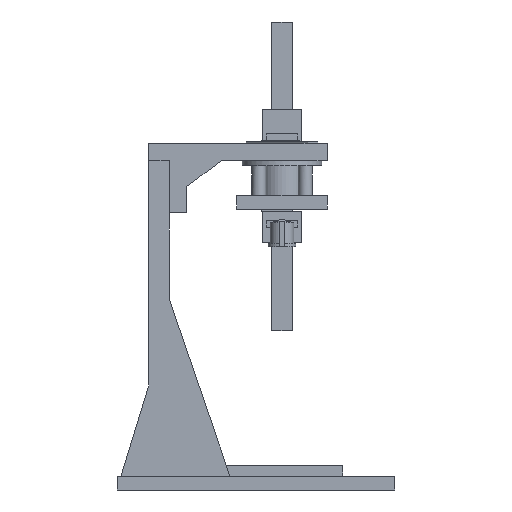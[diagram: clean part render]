
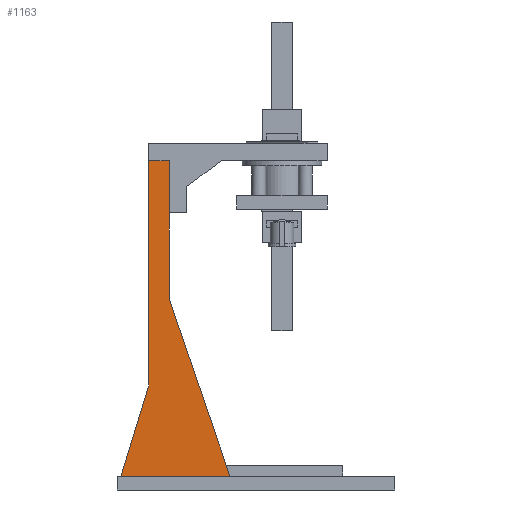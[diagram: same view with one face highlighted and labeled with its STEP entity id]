
A CAD part, left-side view. The second image highlights one B-rep face of the part: STEP entity #1163.
In plain terms, the highlighted planar face has unit normal (-1, 0, 0).
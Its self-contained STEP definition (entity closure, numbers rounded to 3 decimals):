
#220 = PLANE('',#221);
#221 = AXIS2_PLACEMENT_3D('',#222,#223,#224);
#222 = CARTESIAN_POINT('',(0.,0.,8.));
#223 = DIRECTION('',(0.,0.,1.));
#224 = DIRECTION('',(1.,0.,0.));
#474 = VERTEX_POINT('',#475);
#475 = CARTESIAN_POINT('',(45.,95.,8.));
#491 = PLANE('',#492);
#492 = AXIS2_PLACEMENT_3D('',#493,#494,#495);
#493 = CARTESIAN_POINT('',(45.,130.,110.));
#494 = DIRECTION('',(0.,0.946,-0.325));
#495 = DIRECTION('',(0.,-0.325,-0.946));
#503 = EDGE_CURVE('',#474,#504,#506,.T.);
#504 = VERTEX_POINT('',#505);
#505 = CARTESIAN_POINT('',(45.,158.,8.));
#506 = SURFACE_CURVE('',#507,(#511,#518),.PCURVE_S1.);
#507 = LINE('',#508,#509);
#508 = CARTESIAN_POINT('',(45.,95.,8.));
#509 = VECTOR('',#510,1.);
#510 = DIRECTION('',(0.,1.,0.));
#511 = PCURVE('',#220,#512);
#512 = DEFINITIONAL_REPRESENTATION('',(#513),#517);
#513 = LINE('',#514,#515);
#514 = CARTESIAN_POINT('',(45.,95.));
#515 = VECTOR('',#516,1.);
#516 = DIRECTION('',(0.,1.));
#517 = ( GEOMETRIC_REPRESENTATION_CONTEXT(2) 
PARAMETRIC_REPRESENTATION_CONTEXT() REPRESENTATION_CONTEXT('2D SPACE',''
  ) );
#518 = PCURVE('',#519,#524);
#519 = PLANE('',#520);
#520 = AXIS2_PLACEMENT_3D('',#521,#522,#523);
#521 = CARTESIAN_POINT('',(45.,146.601,30.601));
#522 = DIRECTION('',(1.,0.,0.));
#523 = DIRECTION('',(-0.,0.,1.));
#524 = DEFINITIONAL_REPRESENTATION('',(#525),#529);
#525 = LINE('',#526,#527);
#526 = CARTESIAN_POINT('',(-22.601,51.601));
#527 = VECTOR('',#528,1.);
#528 = DIRECTION('',(0.,-1.));
#529 = ( GEOMETRIC_REPRESENTATION_CONTEXT(2) 
PARAMETRIC_REPRESENTATION_CONTEXT() REPRESENTATION_CONTEXT('2D SPACE',''
  ) );
#547 = PLANE('',#548);
#548 = AXIS2_PLACEMENT_3D('',#549,#550,#551);
#549 = CARTESIAN_POINT('',(45.,158.,8.));
#550 = DIRECTION('',(0.,-0.956,-0.294));
#551 = DIRECTION('',(0.,-0.294,0.956));
#603 = PLANE('',#604);
#604 = AXIS2_PLACEMENT_3D('',#605,#606,#607);
#605 = CARTESIAN_POINT('',(45.,142.,8.));
#606 = DIRECTION('',(0.,1.,0.));
#607 = DIRECTION('',(0.,0.,1.));
#771 = PLANE('',#772);
#772 = AXIS2_PLACEMENT_3D('',#773,#774,#775);
#773 = CARTESIAN_POINT('',(45.,130.,8.));
#774 = DIRECTION('',(0.,1.,0.));
#775 = DIRECTION('',(0.,0.,1.));
#1097 = VERTEX_POINT('',#1098);
#1098 = CARTESIAN_POINT('',(45.,130.,110.));
#1143 = EDGE_CURVE('',#1097,#474,#1144,.T.);
#1144 = SURFACE_CURVE('',#1145,(#1149,#1156),.PCURVE_S1.);
#1145 = LINE('',#1146,#1147);
#1146 = CARTESIAN_POINT('',(45.,130.,110.));
#1147 = VECTOR('',#1148,1.);
#1148 = DIRECTION('',(0.,-0.325,-0.946));
#1149 = PCURVE('',#491,#1150);
#1150 = DEFINITIONAL_REPRESENTATION('',(#1151),#1155);
#1151 = LINE('',#1152,#1153);
#1152 = CARTESIAN_POINT('',(0.,0.));
#1153 = VECTOR('',#1154,1.);
#1154 = DIRECTION('',(1.,0.));
#1155 = ( GEOMETRIC_REPRESENTATION_CONTEXT(2) 
PARAMETRIC_REPRESENTATION_CONTEXT() REPRESENTATION_CONTEXT('2D SPACE',''
  ) );
#1156 = PCURVE('',#519,#1157);
#1157 = DEFINITIONAL_REPRESENTATION('',(#1158),#1162);
#1158 = LINE('',#1159,#1160);
#1159 = CARTESIAN_POINT('',(79.399,16.601));
#1160 = VECTOR('',#1161,1.);
#1161 = DIRECTION('',(-0.946,0.325));
#1162 = ( GEOMETRIC_REPRESENTATION_CONTEXT(2) 
PARAMETRIC_REPRESENTATION_CONTEXT() REPRESENTATION_CONTEXT('2D SPACE',''
  ) );
#1163 = ADVANCED_FACE('',(#1164),#519,.F.);
#1164 = FACE_BOUND('',#1165,.F.);
#1165 = EDGE_LOOP('',(#1166,#1189,#1212,#1240,#1261,#1262));
#1166 = ORIENTED_EDGE('',*,*,#1167,.T.);
#1167 = EDGE_CURVE('',#504,#1168,#1170,.T.);
#1168 = VERTEX_POINT('',#1169);
#1169 = CARTESIAN_POINT('',(45.,142.,60.));
#1170 = SURFACE_CURVE('',#1171,(#1175,#1182),.PCURVE_S1.);
#1171 = LINE('',#1172,#1173);
#1172 = CARTESIAN_POINT('',(45.,158.,8.));
#1173 = VECTOR('',#1174,1.);
#1174 = DIRECTION('',(0.,-0.294,0.956));
#1175 = PCURVE('',#519,#1176);
#1176 = DEFINITIONAL_REPRESENTATION('',(#1177),#1181);
#1177 = LINE('',#1178,#1179);
#1178 = CARTESIAN_POINT('',(-22.601,-11.399));
#1179 = VECTOR('',#1180,1.);
#1180 = DIRECTION('',(0.956,0.294));
#1181 = ( GEOMETRIC_REPRESENTATION_CONTEXT(2) 
PARAMETRIC_REPRESENTATION_CONTEXT() REPRESENTATION_CONTEXT('2D SPACE',''
  ) );
#1182 = PCURVE('',#547,#1183);
#1183 = DEFINITIONAL_REPRESENTATION('',(#1184),#1188);
#1184 = LINE('',#1185,#1186);
#1185 = CARTESIAN_POINT('',(0.,0.));
#1186 = VECTOR('',#1187,1.);
#1187 = DIRECTION('',(1.,0.));
#1188 = ( GEOMETRIC_REPRESENTATION_CONTEXT(2) 
PARAMETRIC_REPRESENTATION_CONTEXT() REPRESENTATION_CONTEXT('2D SPACE',''
  ) );
#1189 = ORIENTED_EDGE('',*,*,#1190,.T.);
#1190 = EDGE_CURVE('',#1168,#1191,#1193,.T.);
#1191 = VERTEX_POINT('',#1192);
#1192 = CARTESIAN_POINT('',(45.,142.,190.));
#1193 = SURFACE_CURVE('',#1194,(#1198,#1205),.PCURVE_S1.);
#1194 = LINE('',#1195,#1196);
#1195 = CARTESIAN_POINT('',(45.,142.,8.));
#1196 = VECTOR('',#1197,1.);
#1197 = DIRECTION('',(0.,0.,1.));
#1198 = PCURVE('',#519,#1199);
#1199 = DEFINITIONAL_REPRESENTATION('',(#1200),#1204);
#1200 = LINE('',#1201,#1202);
#1201 = CARTESIAN_POINT('',(-22.601,4.601));
#1202 = VECTOR('',#1203,1.);
#1203 = DIRECTION('',(1.,0.));
#1204 = ( GEOMETRIC_REPRESENTATION_CONTEXT(2) 
PARAMETRIC_REPRESENTATION_CONTEXT() REPRESENTATION_CONTEXT('2D SPACE',''
  ) );
#1205 = PCURVE('',#603,#1206);
#1206 = DEFINITIONAL_REPRESENTATION('',(#1207),#1211);
#1207 = LINE('',#1208,#1209);
#1208 = CARTESIAN_POINT('',(0.,0.));
#1209 = VECTOR('',#1210,1.);
#1210 = DIRECTION('',(1.,0.));
#1211 = ( GEOMETRIC_REPRESENTATION_CONTEXT(2) 
PARAMETRIC_REPRESENTATION_CONTEXT() REPRESENTATION_CONTEXT('2D SPACE',''
  ) );
#1212 = ORIENTED_EDGE('',*,*,#1213,.F.);
#1213 = EDGE_CURVE('',#1214,#1191,#1216,.T.);
#1214 = VERTEX_POINT('',#1215);
#1215 = CARTESIAN_POINT('',(45.,130.,190.));
#1216 = SURFACE_CURVE('',#1217,(#1221,#1228),.PCURVE_S1.);
#1217 = LINE('',#1218,#1219);
#1218 = CARTESIAN_POINT('',(45.,130.,190.));
#1219 = VECTOR('',#1220,1.);
#1220 = DIRECTION('',(0.,1.,0.));
#1221 = PCURVE('',#519,#1222);
#1222 = DEFINITIONAL_REPRESENTATION('',(#1223),#1227);
#1223 = LINE('',#1224,#1225);
#1224 = CARTESIAN_POINT('',(159.399,16.601));
#1225 = VECTOR('',#1226,1.);
#1226 = DIRECTION('',(0.,-1.));
#1227 = ( GEOMETRIC_REPRESENTATION_CONTEXT(2) 
PARAMETRIC_REPRESENTATION_CONTEXT() REPRESENTATION_CONTEXT('2D SPACE',''
  ) );
#1228 = PCURVE('',#1229,#1234);
#1229 = PLANE('',#1230);
#1230 = AXIS2_PLACEMENT_3D('',#1231,#1232,#1233);
#1231 = CARTESIAN_POINT('',(45.,130.,190.));
#1232 = DIRECTION('',(0.,0.,1.));
#1233 = DIRECTION('',(1.,0.,0.));
#1234 = DEFINITIONAL_REPRESENTATION('',(#1235),#1239);
#1235 = LINE('',#1236,#1237);
#1236 = CARTESIAN_POINT('',(0.,0.));
#1237 = VECTOR('',#1238,1.);
#1238 = DIRECTION('',(0.,1.));
#1239 = ( GEOMETRIC_REPRESENTATION_CONTEXT(2) 
PARAMETRIC_REPRESENTATION_CONTEXT() REPRESENTATION_CONTEXT('2D SPACE',''
  ) );
#1240 = ORIENTED_EDGE('',*,*,#1241,.F.);
#1241 = EDGE_CURVE('',#1097,#1214,#1242,.T.);
#1242 = SURFACE_CURVE('',#1243,(#1247,#1254),.PCURVE_S1.);
#1243 = LINE('',#1244,#1245);
#1244 = CARTESIAN_POINT('',(45.,130.,8.));
#1245 = VECTOR('',#1246,1.);
#1246 = DIRECTION('',(0.,0.,1.));
#1247 = PCURVE('',#519,#1248);
#1248 = DEFINITIONAL_REPRESENTATION('',(#1249),#1253);
#1249 = LINE('',#1250,#1251);
#1250 = CARTESIAN_POINT('',(-22.601,16.601));
#1251 = VECTOR('',#1252,1.);
#1252 = DIRECTION('',(1.,0.));
#1253 = ( GEOMETRIC_REPRESENTATION_CONTEXT(2) 
PARAMETRIC_REPRESENTATION_CONTEXT() REPRESENTATION_CONTEXT('2D SPACE',''
  ) );
#1254 = PCURVE('',#771,#1255);
#1255 = DEFINITIONAL_REPRESENTATION('',(#1256),#1260);
#1256 = LINE('',#1257,#1258);
#1257 = CARTESIAN_POINT('',(0.,0.));
#1258 = VECTOR('',#1259,1.);
#1259 = DIRECTION('',(1.,0.));
#1260 = ( GEOMETRIC_REPRESENTATION_CONTEXT(2) 
PARAMETRIC_REPRESENTATION_CONTEXT() REPRESENTATION_CONTEXT('2D SPACE',''
  ) );
#1261 = ORIENTED_EDGE('',*,*,#1143,.T.);
#1262 = ORIENTED_EDGE('',*,*,#503,.T.);
